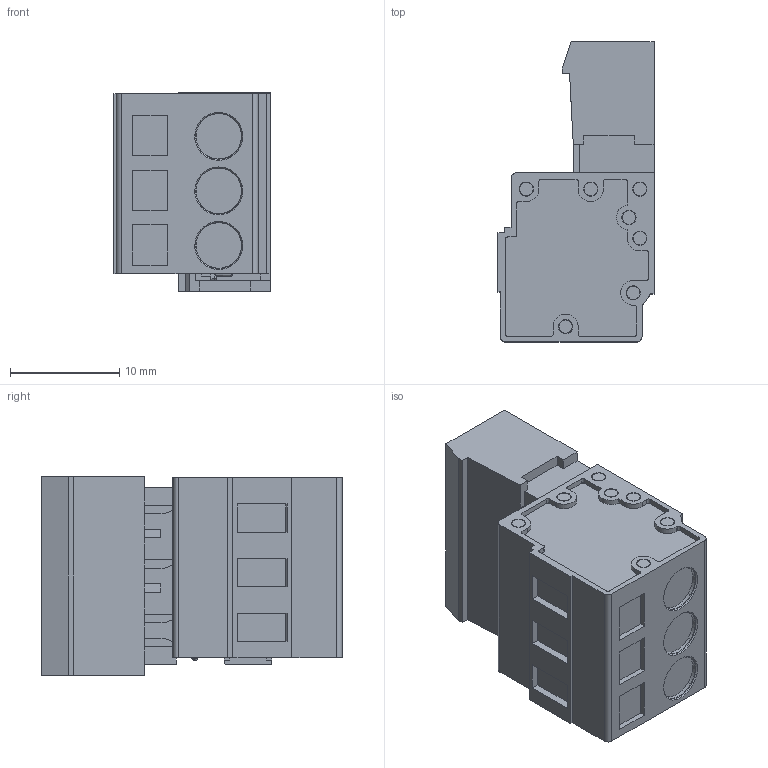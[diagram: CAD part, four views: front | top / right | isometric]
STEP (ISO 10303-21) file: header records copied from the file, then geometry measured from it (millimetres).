
FILE_DESCRIPTION((''),'2;1');
FILE_NAME('3PIN_SW0001','2019-06-06T',('zhenbing.lai'),(''),'CREO PARAMETRIC BY PTC INC, 2016260','CREO PARAMETRIC BY PTC INC, 2016260','');
FILE_SCHEMA(('CONFIG_CONTROL_DESIGN'));
Length unit declared in the file: millimetre
Products named in the file (1): 3PIN_SW0001
Bounding box: 14.3 x 27.5 x 18.2 mm (x, y, z)
Volume: 4203.7 mm3; surface area: 2705 mm2
Topology: 1 solids, 1 shells, 439 faces, 1125 edges, 724 vertices
Faces by surface type: plane 297, cylinder 92, cone 43, sphere 5, bspline 2
Entity records: 13263 total; most frequent: CARTESIAN_POINT 2383, DIRECTION 2247, ORIENTED_EDGE 2240, EDGE_CURVE 1120, VECTOR 847, LINE 847, VERTEX_POINT 724, AXIS2_PLACEMENT_3D 700
